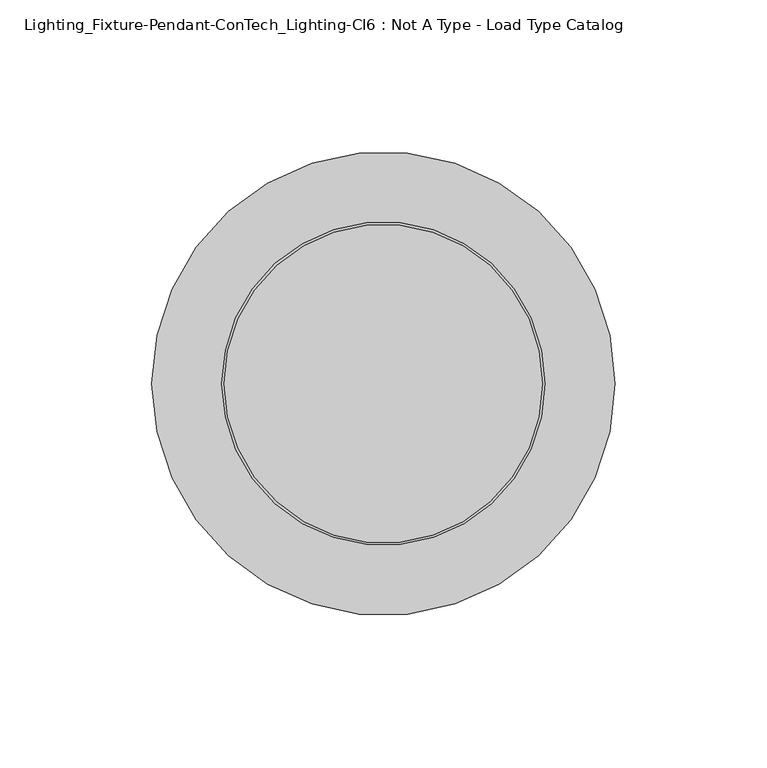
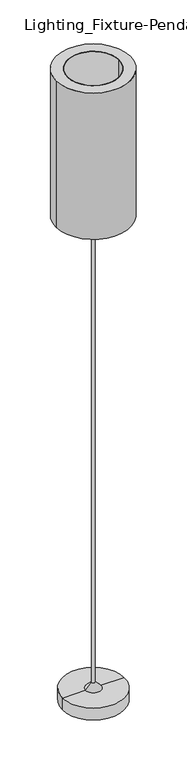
"""IFC4 building model written with IfcOpenShell, lengths in millimetres: light fixture geometry, Lighting_Fixture-Pendant-ConTech_Lighting-CI6 : Not A Type - Load Type Catalog."""

import ifcopenshell
import ifcopenshell.guid

model = None  # the IFC model being written
_history = None  # IfcOwnerHistory: only IFC2X3 demands one
_inside = {}  # id of a spatial element -> (the spatial element, [elements in it])
_under = {}  # id of a project, library or spatial element -> (it, [spatial elements below it])
_declared = {}  # id of a project -> (the project, [libraries it declares])
_typed = {}  # id of a type object -> (the type object, [elements of that type])
_made_of = {}  # id of a material, layer set ... -> (it, [elements and type objects made of it])


def new_model(schema):
    """Start an empty IFC model of exactly this schema.

    Asked for "IFC4X3", IfcOpenShell would pick the latest addendum, in which some entities
    have other attributes; the version numbers below select the first issue.
    IFC2X3 requires an IfcOwnerHistory on every rooted entity: one is made here for all.
    """
    global model, _history
    if schema == "IFC4X3":
        model = ifcopenshell.file(schema_version=(4, 3, 0, 0))
    else:
        model = ifcopenshell.file(schema=schema)
    _inside.clear()
    _under.clear()
    _declared.clear()
    _typed.clear()
    _made_of.clear()
    _history = None
    if model.schema == "IFC2X3":
        org = make("IfcOrganization", Name="unknown")
        user = make(
            "IfcPersonAndOrganization",
            ThePerson=make("IfcPerson", FamilyName="unknown"),
            TheOrganization=org,
        )
        app = make(
            "IfcApplication",
            ApplicationDeveloper=org,
            Version="unknown",
            ApplicationFullName="unknown",
            ApplicationIdentifier="unknown",
        )
        _history = make(
            "IfcOwnerHistory",
            OwningUser=user,
            OwningApplication=app,
            ChangeAction="ADDED",
            CreationDate=0,
        )
    return model


def make(cls, **values):
    """One entity of the class cls with the attributes given. An attribute that is None is left unset."""
    return model.create_entity(
        cls, **{name: value for name, value in values.items() if value is not None}
    )


def rooted(cls, **values):
    """An entity with a GlobalId (a new one), such as an element, a storey or a relation."""
    return make(cls, GlobalId=ifcopenshell.guid.new(), OwnerHistory=_history, **values)


def si_unit(unit_type, name, prefix=None):
    """IfcSIUnit, for example si_unit("LENGTHUNIT", "METRE", prefix="MILLI")."""
    return make("IfcSIUnit", UnitType=unit_type, Prefix=prefix, Name=name)


def assignment(units):
    """IfcUnitAssignment: the units of a project."""
    return None if units is None else make("IfcUnitAssignment", Units=units)


def point(xyz):
    """IfcCartesianPoint."""
    return None if xyz is None else make("IfcCartesianPoint", Coordinates=xyz)


def direction(xyz):
    """IfcDirection."""
    return None if xyz is None else make("IfcDirection", DirectionRatios=xyz)


def frame(location, z_axis=None, x_axis=None):
    """IfcAxis2Placement3D, a coordinate frame: its origin and axes. An axis left out is left unset."""
    return make(
        "IfcAxis2Placement3D",
        Location=point(location),
        Axis=direction(z_axis),
        RefDirection=direction(x_axis),
    )


def frame_2d(location, x_axis=None):
    """IfcAxis2Placement2D, a coordinate frame in the plane: its origin and x axis."""
    return make(
        "IfcAxis2Placement2D", Location=point(location), RefDirection=direction(x_axis)
    )


def origin():
    """The frame at (0, 0, 0) with its axes left unset."""
    return frame((0.0, 0.0, 0.0))


def origin_2d():
    """The frame at (0, 0) in the plane with its x axis left unset."""
    return frame_2d((0.0, 0.0))


def place(relative_to, where):
    """IfcLocalPlacement: puts the frame where relative to a parent placement (None: the world)."""
    return make(
        "IfcLocalPlacement", PlacementRelTo=relative_to, RelativePlacement=where
    )


def context(
    kind, dimensions, precision=None, world=None, true_north=None, identifier=None
):
    """IfcGeometricRepresentationContext, for example the 3D "Model" context."""
    return make(
        "IfcGeometricRepresentationContext",
        ContextIdentifier=identifier,
        ContextType=kind,
        CoordinateSpaceDimension=dimensions,
        Precision=precision,
        WorldCoordinateSystem=world,
        TrueNorth=true_north,
    )


def project(units=None, contexts=None):
    """IfcProject with its units and contexts."""
    return rooted(
        "IfcProject",
        Name="project",
        RepresentationContexts=contexts,
        UnitsInContext=assignment(units),
    )


def spatial(cls, under=None, at=None, **own):
    """A site, building, storey or space (cls), placed at a placement, below another one or the project."""
    s = rooted(cls, ObjectPlacement=at, **own)
    if under is not None:
        _under.setdefault(under.id(), (under, []))[1].append(s)
    return s


def polyline(points):
    """IfcPolyline through the points."""
    return make("IfcPolyline", Points=[point(p) for p in points])


def circle_curve(where, radius):
    """IfcCircle in the frame where."""
    return make("IfcCircle", Position=where, Radius=radius)


def trimmed(basis, trim1, trim2, sense, master):
    """IfcTrimmedCurve: the piece of a basis curve between two trims."""
    return make(
        "IfcTrimmedCurve",
        BasisCurve=basis,
        Trim1=trim1,
        Trim2=trim2,
        SenseAgreement=sense,
        MasterRepresentation=master,
    )


def segment(curve, same_sense, transition):
    """IfcCompositeCurveSegment."""
    return make(
        "IfcCompositeCurveSegment",
        Transition=transition,
        SameSense=same_sense,
        ParentCurve=curve,
    )


def composite_curve(segments, self_intersect=None):
    """IfcCompositeCurve: segments joined end to end."""
    return make("IfcCompositeCurve", Segments=segments, SelfIntersect=self_intersect)


def outline(outer, holes=None, kind="AREA"):
    """IfcArbitraryClosedProfileDef: a profile drawn as a closed curve; with holes, ...WithVoids."""
    if holes is None:
        return make("IfcArbitraryClosedProfileDef", ProfileType=kind, OuterCurve=outer)
    return make(
        "IfcArbitraryProfileDefWithVoids",
        ProfileType=kind,
        OuterCurve=outer,
        InnerCurves=holes,
    )


def extrude(swept, where, along, depth):
    """IfcExtrudedAreaSolid: the profile swept, set in the frame where, extruded along a direction by depth."""
    return make(
        "IfcExtrudedAreaSolid",
        SweptArea=swept,
        Position=where,
        ExtrudedDirection=direction(along),
        Depth=depth,
    )


def shape(context_of_items, identifier, shape_type, items):
    """IfcShapeRepresentation: the items that make up one representation, for example the "Body"."""
    return make(
        "IfcShapeRepresentation",
        ContextOfItems=context_of_items,
        RepresentationIdentifier=identifier,
        RepresentationType=shape_type,
        Items=items,
    )


def source(mapping_origin, context_of_items, identifier, shape_type, items):
    """IfcRepresentationMap: a shape defined once, which mapped items show again and again."""
    return make(
        "IfcRepresentationMap",
        MappingOrigin=mapping_origin,
        MappedRepresentation=shape(context_of_items, identifier, shape_type, items),
    )


def transform(
    local_origin,
    x_axis=None,
    y_axis=None,
    z_axis=None,
    scale=None,
    scale2=None,
    scale3=None,
    uniform=True,
):
    """IfcCartesianTransformationOperator3D, or its non-uniform kind. x_axis, y_axis, z_axis: its Axis1, 2, 3."""
    if uniform:
        return make(
            "IfcCartesianTransformationOperator3D",
            Axis1=direction(x_axis),
            Axis2=direction(y_axis),
            LocalOrigin=point(local_origin),
            Scale=scale,
            Axis3=direction(z_axis),
        )
    return make(
        "IfcCartesianTransformationOperator3DnonUniform",
        Axis1=direction(x_axis),
        Axis2=direction(y_axis),
        LocalOrigin=point(local_origin),
        Scale=scale,
        Axis3=direction(z_axis),
        Scale2=scale2,
        Scale3=scale3,
    )


def mapped(mapping_source, mapping_target):
    """IfcMappedItem: shows the shape of a source again, moved by a transform."""
    return make(
        "IfcMappedItem", MappingSource=mapping_source, MappingTarget=mapping_target
    )


def made_of(thing, what):
    """Note that an element or type object is made of a material, layer set ...; save() writes the relation."""
    if what is not None:
        _made_of.setdefault(what.id(), (what, []))[1].append(thing)
    return thing


def element(
    cls,
    number,
    at=None,
    inside=None,
    cuts=None,
    type_object=None,
    material=None,
    context=None,
    identifier="Body",
    shape_type=None,
    held_by="IfcProductDefinitionShape",
    body=None,
    shapes=None,
    **own,
):
    """One element of the class cls, such as IfcWall. Its Tag is "e" and its number.

    at: its placement. inside: the storey or other place that contains it. cuts: it is an
    opening in that element (IfcRelVoidsElement). A single representation is given by context,
    identifier, shape_type and body (its items); several are given by shapes. held_by: the class
    of the entity that holds the representations. save() writes the other relations.
    """
    e = rooted(cls, Tag="e%d" % number, ObjectPlacement=at, **own)
    if body is not None:
        shapes = [shape(context, identifier, shape_type, body)]
    if shapes is not None:
        e.Representation = make(held_by, Representations=shapes)
    if inside is not None:
        _inside.setdefault(inside.id(), (inside, []))[1].append(e)
    if cuts is not None:
        rooted(
            "IfcRelVoidsElement", RelatingBuildingElement=cuts, RelatedOpeningElement=e
        )
    if type_object is not None:
        _typed.setdefault(type_object.id(), (type_object, []))[1].append(e)
    return made_of(e, material)


def aggregate(whole, parts):
    """IfcRelAggregates: a whole, such as a stair, and the parts it consists of."""
    return rooted("IfcRelAggregates", RelatingObject=whole, RelatedObjects=parts)


def save(model, path):
    """Write the relations noted so far, then the file.

    IfcRelAggregates (storeys below a building ...), IfcRelContainedInSpatialStructure (elements
    in a storey), IfcRelDefinesByType, IfcRelAssociatesMaterial and IfcRelDeclares: one each for
    every whole, place, type object, material and project.
    """
    for whole, parts in _under.values():
        aggregate(whole, parts)
    for where, things in _inside.values():
        rooted(
            "IfcRelContainedInSpatialStructure",
            RelatedElements=things,
            RelatingStructure=where,
        )
    for kind, things in _typed.values():
        rooted("IfcRelDefinesByType", RelatedObjects=things, RelatingType=kind)
    for what, things in _made_of.values():
        rooted("IfcRelAssociatesMaterial", RelatedObjects=things, RelatingMaterial=what)
    for by, libraries in _declared.values():
        rooted("IfcRelDeclares", RelatingContext=by, RelatedDefinitions=libraries)
    model.write(path)


def plane_surface(at):
    """IfcPlane: the flat surface through the origin of the frame at, square to its z axis."""
    return make("IfcPlane", Position=at)


def cylinder_surface(at, radius):
    """IfcCylindricalSurface: all points at the distance radius from the z axis of the frame at."""
    return make("IfcCylindricalSurface", Position=at, Radius=radius)


def revolved_surface(curve, axis_point, axis_direction):
    """IfcSurfaceOfRevolution: the curve turned about the line through axis_point along axis_direction."""
    return make(
        "IfcSurfaceOfRevolution",
        SweptCurve=make("IfcArbitraryOpenProfileDef", ProfileType="CURVE", Curve=curve),
        AxisPosition=make("IfcAxis1Placement", Location=point(axis_point), Axis=direction(axis_direction)),
    )


def advanced_brep(points, edges, surfaces, faces):
    """IfcAdvancedBrep: a solid bounded by faces that lie on surfaces and meet in shared edges.

    An edge is (start, end): straight between two places in points (the first is 0);
    or (start, end, curve); or (start, end, curve, False) where it runs against its curve.
    A face is (place in surfaces, loops), or (place, loops, False) where it looks against
    its surface's normal. A loop lists edges by number (the first is 1), with a minus sign
    where the edge is run from its end to its start. The first loop is the outer one.
    """
    corners = [point(p) for p in points]
    vertices = [make("IfcVertexPoint", VertexGeometry=c) for c in corners]
    made = []
    for start, end, *more in edges:
        made.append(
            make(
                "IfcEdgeCurve",
                EdgeStart=vertices[start],
                EdgeEnd=vertices[end],
                EdgeGeometry=more[0] if more else make("IfcPolyline", Points=[corners[start], corners[end]]),
                SameSense=more[1] if len(more) > 1 else True,
            )
        )
    hull = []
    for where, loops, *sense in faces:
        bounds = []
        for j, loop in enumerate(loops):
            ring = [make("IfcOrientedEdge", EdgeElement=made[abs(k) - 1], Orientation=k > 0) for k in loop]
            bounds.append(
                make(
                    "IfcFaceOuterBound" if j == 0 else "IfcFaceBound",
                    Bound=make("IfcEdgeLoop", EdgeList=ring),
                    Orientation=True,
                )
            )
        hull.append(make("IfcAdvancedFace", Bounds=bounds, FaceSurface=surfaces[where], SameSense=sense[0] if sense else True))
    return make("IfcAdvancedBrep", Outer=make("IfcClosedShell", CfsFaces=hull))


def lighting_fixture_pendant_contech_lighting_ci6_not_a_type_9c6e3dd4(model_context):
    return source(origin(), model_context, "Body", "SolidModel", [
        advanced_brep(
        [(12.2721073, 0.0, 1050.8), (0.0, 0.0, 1050.8), (-12.2721073, 0.0, 1050.8), (3.175, 0.0, 1038.1), (-3.175, 0.0, 1038.1), (3.175, 0.0, 38.1), (-3.175, 0.0, 38.1), (15.875, 0.0, 25.4), (-15.875, 0.0, 25.4), (63.5, 0.0, 25.4), (-63.5, 0.0, 25.4), (63.5, 0.0, 0.0), (-63.5, 0.0, 0.0), (0.0, 0.0, 0.0)],
        [
            (0, 1),
            (1, 2),
            (2, 0, circle_curve(frame((0.0, 0.0, 1050.8), z_axis=(0.0, 0.0, 1.0), x_axis=(-1.0, 0.0, 0.0)), 12.2721073)),
            (0, 2, circle_curve(frame((0.0, 0.0, 1050.8), z_axis=(0.0, 0.0, 1.0), x_axis=(-1.0, 0.0, 0.0)), 12.2721073)),
            (3, 0),
            (2, 4),
            (4, 3, circle_curve(frame((0.0, 0.0, 1038.1), z_axis=(0.0, 0.0, 1.0), x_axis=(-1.0, 0.0, 0.0)), 3.175)),
            (3, 4, circle_curve(frame((0.0, 0.0, 1038.1), z_axis=(0.0, 0.0, 1.0), x_axis=(-1.0, 0.0, 0.0)), 3.175)),
            (5, 3),
            (4, 6),
            (6, 5, circle_curve(frame((0.0, 0.0, 38.1), z_axis=(0.0, 0.0, 1.0), x_axis=(-1.0, 0.0, 0.0)), 3.175)),
            (5, 6, circle_curve(frame((0.0, 0.0, 38.1), z_axis=(0.0, 0.0, 1.0), x_axis=(-1.0, 0.0, 0.0)), 3.175)),
            (7, 5),
            (6, 8),
            (8, 7, circle_curve(frame((0.0, 0.0, 25.4), z_axis=(0.0, 0.0, 1.0), x_axis=(-1.0, 0.0, 0.0)), 15.875)),
            (7, 8, circle_curve(frame((0.0, 0.0, 25.4), z_axis=(0.0, 0.0, 1.0), x_axis=(-1.0, 0.0, 0.0)), 15.875)),
            (9, 7),
            (8, 10),
            (10, 9, circle_curve(frame((0.0, 0.0, 25.4), z_axis=(0.0, 0.0, 1.0), x_axis=(-1.0, 0.0, 0.0)), 63.5)),
            (9, 10, circle_curve(frame((0.0, 0.0, 25.4), z_axis=(0.0, 0.0, 1.0), x_axis=(-1.0, 0.0, 0.0)), 63.5)),
            (11, 9),
            (10, 12),
            (12, 11, circle_curve(frame((0.0, 0.0, 0.0), z_axis=(0.0, 0.0, 1.0), x_axis=(-1.0, 0.0, 0.0)), 63.5)),
            (11, 12, circle_curve(frame((0.0, 0.0, 0.0), z_axis=(0.0, 0.0, 1.0), x_axis=(-1.0, 0.0, 0.0)), 63.5)),
            (13, 11),
            (12, 13),
        ],
        [
            plane_surface(frame((0.0, 0.0, 1050.8), z_axis=(0.0, 0.0, 1.0), x_axis=(-1.0, 0.0, 0.0))),
            revolved_surface(polyline([(-12.2721073, 0.0, 1050.8), (-3.175, 0.0, 1038.1)]), (0.0, 0.0, 0.0), (0.0, 0.0, -1.0)),
            cylinder_surface(frame((0.0, 0.0, 0.0), z_axis=(0.0, 0.0, -1.0), x_axis=(-1.0, 0.0, 0.0)), 3.175),
            revolved_surface(polyline([(-3.175, 0.0, 38.1), (-15.875, 0.0, 25.4)]), (0.0, 0.0, 0.0), (0.0, 0.0, -1.0)),
            plane_surface(frame((0.0, 0.0, 25.4), z_axis=(0.0, 0.0, 1.0), x_axis=(-1.0, 0.0, 0.0))),
            cylinder_surface(frame((0.0, 0.0, 0.0), z_axis=(0.0, 0.0, -1.0), x_axis=(-1.0, 0.0, 0.0)), 63.5),
            plane_surface(frame((0.0, 0.0, 0.0), z_axis=(0.0, 0.0, -1.0), x_axis=(-1.0, 0.0, 0.0))),
        ],
        [
            (0, [[1, 2, 3]]),
            (0, [[-2, -1, 4]]),
            (1, [[5, -3, 6, 7]]),
            (1, [[-6, -4, -5, 8]]),
            (2, [[9, -7, 10, 11]]),
            (2, [[-10, -8, -9, 12]]),
            (3, [[13, -11, 14, 15]]),
            (3, [[-14, -12, -13, 16]]),
            (4, [[17, -15, 18, 19]]),
            (4, [[-18, -16, -17, 20]]),
            (5, [[21, -19, 22, 23]]),
            (5, [[-22, -20, -21, 24]]),
            (6, [[25, -23, 26]]),
            (6, [[-26, -24, -25]]),
        ],
    ),
        extrude(outline(composite_curve([segment(trimmed(circle_curve(origin_2d(), 53.18125), [point((-53.18125, 0.0))], [point((53.18125, 0.0))], False, "CARTESIAN"), True, "CONTINUOUS"), segment(trimmed(circle_curve(origin_2d(), 53.18125), [point((53.18125, 0.0))], [point((-53.18125, 0.0))], False, "CARTESIAN"), True, "CONTINUOUS")], self_intersect=False)), frame((0.0, 0.0, 1050.8), z_axis=(0.0, 0.0, 1.0), x_axis=(1.0, 0.0, 0.0)), (0.0, 0.0, 1.0), 203.2),
        extrude(outline(composite_curve([segment(trimmed(circle_curve(origin_2d(), 53.18125), [point((53.18125, 0.0))], [point((-53.18125, 0.0))], False, "CARTESIAN"), True, "CONTINUOUS"), segment(trimmed(circle_curve(origin_2d(), 53.18125), [point((-53.18125, 0.0))], [point((53.18125, 0.0))], False, "CARTESIAN"), True, "CONTINUOUS")], self_intersect=False), holes=[composite_curve([segment(trimmed(circle_curve(origin_2d(), 52.3875), [point((-52.3875, 0.0))], [point((52.3875, 0.0))], True, "CARTESIAN"), True, "CONTINUOUS"), segment(trimmed(circle_curve(origin_2d(), 52.3875), [point((52.3875, 0.0))], [point((-52.3875, 0.0))], True, "CARTESIAN"), True, "CONTINUOUS")], self_intersect=False)]), frame((0.0, 0.0, 1266.7), z_axis=(0.0, 0.0, 1.0), x_axis=(1.0, 0.0, 0.0)), (0.0, 0.0, 1.0), 101.6),
        extrude(outline(composite_curve([segment(trimmed(circle_curve(origin_2d(), 52.3875), [point((52.3875, 0.0))], [point((-52.3875, 0.0))], False, "CARTESIAN"), True, "CONTINUOUS"), segment(trimmed(circle_curve(origin_2d(), 52.3875), [point((-52.3875, 0.0))], [point((52.3875, 0.0))], False, "CARTESIAN"), True, "CONTINUOUS")], self_intersect=False)), frame((0.0, 0.0, 1254.0), z_axis=(0.0, 0.0, 1.0), x_axis=(1.0, 0.0, 0.0)), (0.0, 0.0, 1.0), 12.7),
        extrude(outline(composite_curve([segment(trimmed(circle_curve(origin_2d(), 76.2), [point((-76.2, 0.0))], [point((76.2, 0.0))], False, "CARTESIAN"), True, "CONTINUOUS"), segment(trimmed(circle_curve(origin_2d(), 76.2), [point((76.2, 0.0))], [point((-76.2, 0.0))], False, "CARTESIAN"), True, "CONTINUOUS")], self_intersect=False), holes=[composite_curve([segment(trimmed(circle_curve(origin_2d(), 53.18125), [point((53.18125, 0.0))], [point((-53.18125, 0.0))], True, "CARTESIAN"), True, "CONTINUOUS"), segment(trimmed(circle_curve(origin_2d(), 53.18125), [point((-53.18125, 0.0))], [point((53.18125, 0.0))], True, "CARTESIAN"), True, "CONTINUOUS")], self_intersect=False)]), frame((0.0, 0.0, 1050.8), z_axis=(0.0, 0.0, 1.0), x_axis=(1.0, 0.0, 0.0)), (0.0, 0.0, 1.0), 317.5),
    ])


if __name__ == "__main__":
    model = new_model("IFC4")
    model_context = context("Model", 3, world=origin())
    ifc_project = project(units=[si_unit("LENGTHUNIT", "METRE", prefix="MILLI")], contexts=[model_context])
    site = spatial("IfcSite", under=ifc_project)
    building = spatial("IfcBuilding", under=site)
    placement = place(None, origin())
    lighting_fixture_pendant_contech_lighting_ci6_not_a_type_shape = lighting_fixture_pendant_contech_lighting_ci6_not_a_type_9c6e3dd4(model_context)
    element("IfcLightFixture", 1, ObjectType="Lighting_Fixture-Pendant-ConTech_Lighting-CI6 : Not A Type - Load Type Catalog", at=placement, inside=building, context=model_context, shape_type="MappedRepresentation", body=[
        mapped(lighting_fixture_pendant_contech_lighting_ci6_not_a_type_shape, transform((0.0, 0.0, 0.0), x_axis=(1.0, 0.0, 0.0), y_axis=(0.0, 1.0, 0.0), z_axis=(0.0, 0.0, 1.0))),
    ])
    save(model, "model.ifc")
